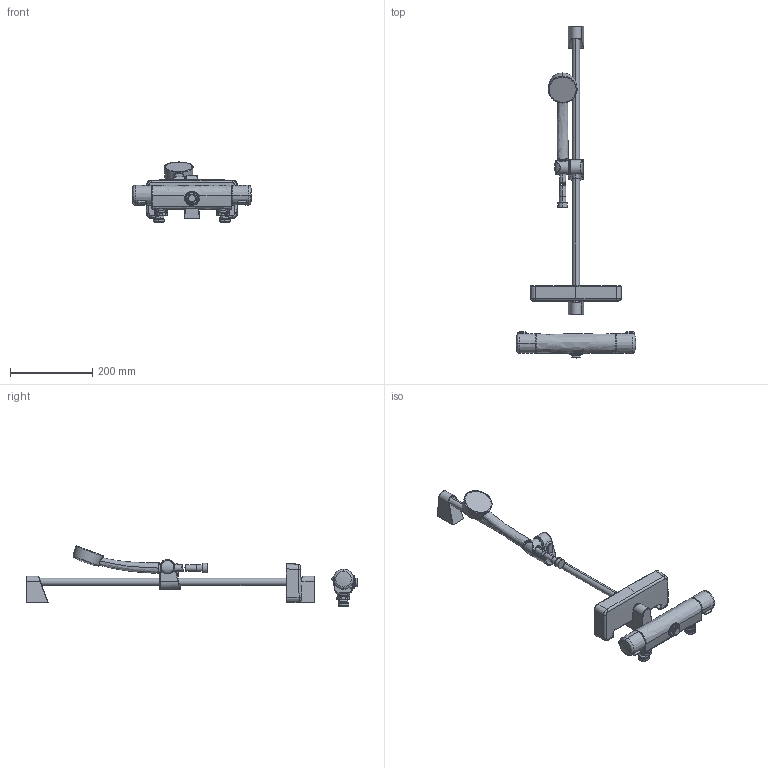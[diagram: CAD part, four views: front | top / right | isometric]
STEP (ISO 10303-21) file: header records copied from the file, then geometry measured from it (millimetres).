
FILE_DESCRIPTION (( 'STEP AP203' ), '1' );
FILE_NAME ('7422G(2022)+7422GL(2022).STEP', '2022-03-03T07:41:08', ( '' ), ( '' ), 'SwSTEP 2.0', 'SolidWorks 2016', '' );
FILE_SCHEMA (( 'CONFIG_CONTROL_DESIGN' ));
Length unit declared in the file: millimetre
Products named in the file (1): 7422G(2022)+7422GL(2022)
Bounding box: 289.19 x 805.9 x 145.73 mm (x, y, z)
Volume: 1469036.2 mm3; surface area: 254584.8 mm2
Topology: 20 solids, 20 shells, 566 faces, 1283 edges, 764 vertices
Faces by surface type: bspline 213, cylinder 124, plane 99, cone 67, torus 57, sphere 6
Entity records: 32346 total; most frequent: CARTESIAN_POINT 21231, ORIENTED_EDGE 2558, DIRECTION 1964, EDGE_CURVE 1279, AXIS2_PLACEMENT_3D 843, VERTEX_POINT 764, EDGE_LOOP 581, ADVANCED_FACE 566
